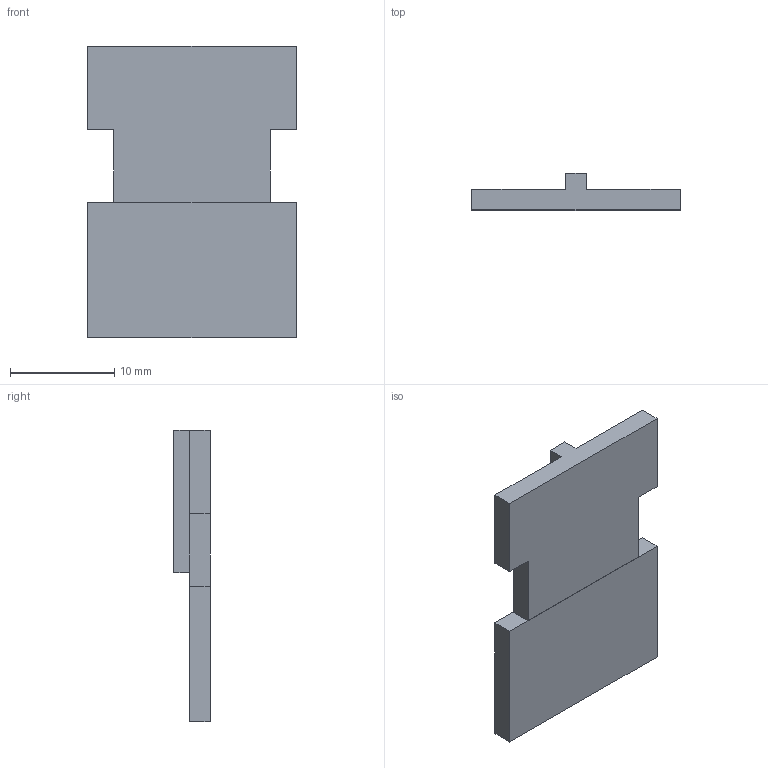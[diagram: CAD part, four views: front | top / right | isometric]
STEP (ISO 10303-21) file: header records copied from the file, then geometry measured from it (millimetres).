
FILE_DESCRIPTION (( 'STEP AP214' ), '1' );
FILE_NAME ('002348.STEP', '2022-02-21T08:17:15', ( '' ), ( '' ), 'SwSTEP 2.0', 'SolidWorks 2021', '' );
FILE_SCHEMA (( 'AUTOMOTIVE_DESIGN' ));
Length unit declared in the file: millimetre
Products named in the file (1): 002348
Bounding box: 20 x 3.5 x 28 mm (x, y, z)
Volume: 1091.1 mm3; surface area: 1369.1 mm2
Topology: 2 solids, 2 shells, 20 faces, 48 edges, 32 vertices
Faces by surface type: plane 20
Entity records: 615 total; most frequent: CARTESIAN_POINT 101, ORIENTED_EDGE 96, DIRECTION 90, VECTOR 48, EDGE_CURVE 48, LINE 48, VERTEX_POINT 32, AXIS2_PLACEMENT_3D 21
